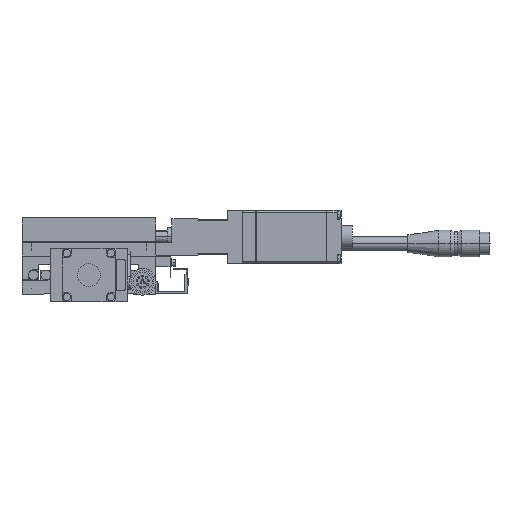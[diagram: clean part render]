
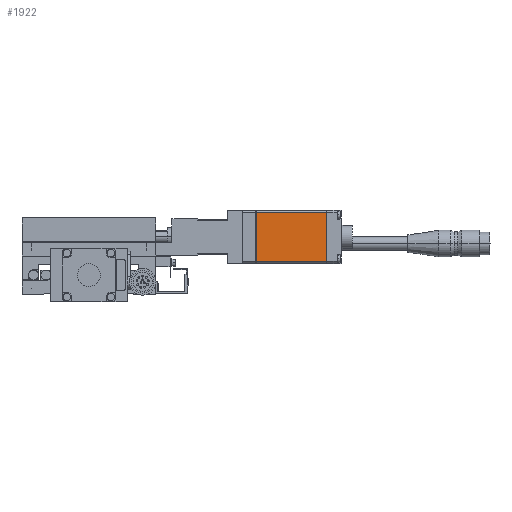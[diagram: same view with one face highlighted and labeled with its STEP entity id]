
A CAD part, left-side view. The second image highlights one B-rep face of the part: STEP entity #1922.
In plain terms, the highlighted planar face has unit normal (-1, 0, 0).
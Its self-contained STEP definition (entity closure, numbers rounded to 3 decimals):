
#1922=ADVANCED_FACE('',(#4784),#4785,.F.);
#4784=FACE_OUTER_BOUND('',#7664,.T.);
#4785=PLANE('',#7665);
#7664=EDGE_LOOP('',(#18173,#18174,#18175,#18176));
#7665=AXIS2_PLACEMENT_3D('',#18177,#18178,#18179);
#18173=ORIENTED_EDGE('',*,*,#21617,.F.);
#18174=ORIENTED_EDGE('',*,*,#21423,.T.);
#18175=ORIENTED_EDGE('',*,*,#21624,.T.);
#18176=ORIENTED_EDGE('',*,*,#21598,.F.);
#18177=CARTESIAN_POINT('',(-14.,-132.,42.845));
#18178=DIRECTION('',(1.0,0.,0.));
#18179=DIRECTION('',(0.,-1.0,0.));
#21423=EDGE_CURVE('',#26741,#26743,#26745,.T.);
#21598=EDGE_CURVE('',#27015,#27017,#27018,.T.);
#21617=EDGE_CURVE('',#26741,#27015,#27039,.T.);
#21624=EDGE_CURVE('',#26743,#27017,#27047,.T.);
#26741=VERTEX_POINT('',#34200);
#26743=VERTEX_POINT('',#34203);
#26745=LINE('',#34206,#34207);
#27015=VERTEX_POINT('',#34624);
#27017=VERTEX_POINT('',#34627);
#27018=LINE('',#34628,#34629);
#27039=LINE('',#34665,#34666);
#27047=LINE('',#34677,#34678);
#34200=CARTESIAN_POINT('',(-14.,-124.45,42.845));
#34203=CARTESIAN_POINT('',(-14.,-87.5,42.845));
#34206=CARTESIAN_POINT('',(-14.,-132.,42.845));
#34207=VECTOR('',#39927,1000.0);
#34624=CARTESIAN_POINT('',(-14.,-124.45,17.155));
#34627=CARTESIAN_POINT('',(-14.,-87.5,17.155));
#34628=CARTESIAN_POINT('',(-14.,-132.,17.155));
#34629=VECTOR('',#40154,1000.0);
#34665=CARTESIAN_POINT('',(-14.,-124.45,42.845));
#34666=VECTOR('',#40179,1000.0);
#34677=CARTESIAN_POINT('',(-14.,-87.5,42.845));
#34678=VECTOR('',#40192,1000.0);
#39927=DIRECTION('',(0.,1.0,0.));
#40154=DIRECTION('',(0.,1.0,0.));
#40179=DIRECTION('',(0.,0.,-1.0));
#40192=DIRECTION('',(0.,0.,-1.0));
